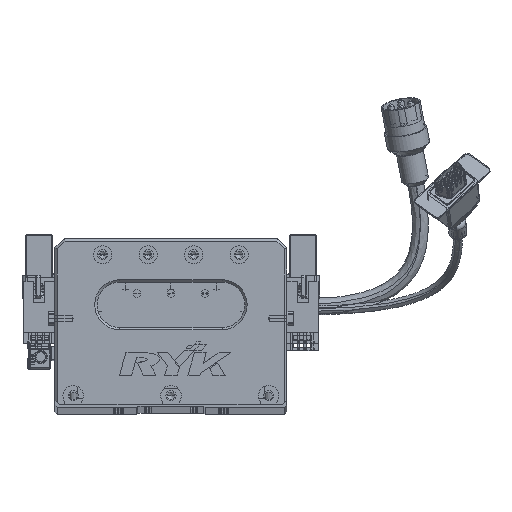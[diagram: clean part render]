
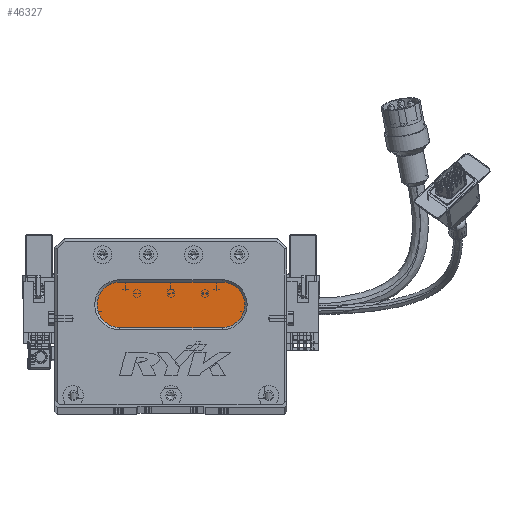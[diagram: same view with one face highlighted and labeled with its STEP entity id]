
A CAD part, top view. The second image highlights one B-rep face of the part: STEP entity #46327.
In plain terms, the highlighted planar face has unit normal (0, 0, 1) as drawn and (0, 0, -1) by its records, which use the part's own axes.
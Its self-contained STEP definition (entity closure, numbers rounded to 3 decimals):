
#610 = CARTESIAN_POINT ( 'NONE',  ( 73.5, 34., 13. ) ) ;
#4131 = EDGE_CURVE ( 'NONE', #58001, #4370, #44203, .T. ) ;
#4178 = AXIS2_PLACEMENT_3D ( 'NONE', #38561, #49883, #31989 ) ;
#4185 = VERTEX_POINT ( 'NONE', #74443 ) ;
#4370 = VERTEX_POINT ( 'NONE', #45395 ) ;
#4868 = ORIENTED_EDGE ( 'NONE', *, *, #4131, .T. ) ;
#9404 = VECTOR ( 'NONE', #13386, 1000. ) ;
#13386 = DIRECTION ( 'NONE',  ( -1., 0., 0. ) ) ;
#17670 = CARTESIAN_POINT ( 'NONE',  ( 28.5, 44., 13. ) ) ;
#19245 = DIRECTION ( 'NONE',  ( 0., 0., -1. ) ) ;
#19913 = CIRCLE ( 'NONE', #54156, 10. ) ;
#20050 = VECTOR ( 'NONE', #31446, 1000. ) ;
#20354 = AXIS2_PLACEMENT_3D ( 'NONE', #69994, #27023, #39161 ) ;
#22327 = EDGE_CURVE ( 'NONE', #4185, #58001, #60602, .T. ) ;
#22798 = VERTEX_POINT ( 'NONE', #56504 ) ;
#27023 = DIRECTION ( 'NONE',  ( 0., 0., -1. ) ) ;
#30820 = CARTESIAN_POINT ( 'NONE',  ( 73.5, 44., 13. ) ) ;
#31446 = DIRECTION ( 'NONE',  ( 1., 0., 0. ) ) ;
#31709 = EDGE_CURVE ( 'NONE', #22798, #4185, #36029, .T. ) ;
#31989 = DIRECTION ( 'NONE',  ( -1., 0., 0. ) ) ;
#32740 = EDGE_CURVE ( 'NONE', #70991, #22798, #19913, .T. ) ;
#33374 = ORIENTED_EDGE ( 'NONE', *, *, #32740, .T. ) ;
#36029 = LINE ( 'NONE', #67594, #20050 ) ;
#38561 = CARTESIAN_POINT ( 'NONE',  ( 28.5, 44., 13. ) ) ;
#39161 = DIRECTION ( 'NONE',  ( -1., 0., 0. ) ) ;
#41545 = EDGE_LOOP ( 'NONE', ( #54935, #4868, #50601, #33374, #71204 ) ) ;
#42106 = DIRECTION ( 'NONE',  ( -1., 0., 0. ) ) ;
#44203 = LINE ( 'NONE', #61315, #9404 ) ;
#45395 = CARTESIAN_POINT ( 'NONE',  ( 28.5, 34., 13. ) ) ;
#46327 = ADVANCED_FACE ( 'NONE', ( #68777 ), #73539, .T. ) ;
#49883 = DIRECTION ( 'NONE',  ( 0., 0., -1. ) ) ;
#50601 = ORIENTED_EDGE ( 'NONE', *, *, #68232, .T. ) ;
#53993 = DIRECTION ( 'NONE',  ( 0., 0., -1. ) ) ;
#54156 = AXIS2_PLACEMENT_3D ( 'NONE', #17670, #53993, #42106 ) ;
#54935 = ORIENTED_EDGE ( 'NONE', *, *, #22327, .T. ) ;
#56504 = CARTESIAN_POINT ( 'NONE',  ( 28.5, 54., 13. ) ) ;
#57675 = CARTESIAN_POINT ( 'NONE',  ( 18.5, 44., 13. ) ) ;
#58001 = VERTEX_POINT ( 'NONE', #610 ) ;
#58357 = AXIS2_PLACEMENT_3D ( 'NONE', #30820, #19245, #72495 ) ;
#60269 = CIRCLE ( 'NONE', #4178, 10. ) ;
#60602 = CIRCLE ( 'NONE', #20354, 10. ) ;
#61315 = CARTESIAN_POINT ( 'NONE',  ( 73.5, 34., 13. ) ) ;
#67594 = CARTESIAN_POINT ( 'NONE',  ( 73.5, 54., 13. ) ) ;
#68232 = EDGE_CURVE ( 'NONE', #4370, #70991, #60269, .T. ) ;
#68777 = FACE_OUTER_BOUND ( 'NONE', #41545, .T. ) ;
#69994 = CARTESIAN_POINT ( 'NONE',  ( 73.5, 44., 13. ) ) ;
#70991 = VERTEX_POINT ( 'NONE', #57675 ) ;
#71204 = ORIENTED_EDGE ( 'NONE', *, *, #31709, .T. ) ;
#72495 = DIRECTION ( 'NONE',  ( -1., 0., 0. ) ) ;
#73539 = PLANE ( 'NONE',  #58357 ) ;
#74443 = CARTESIAN_POINT ( 'NONE',  ( 73.5, 54., 13. ) ) ;
